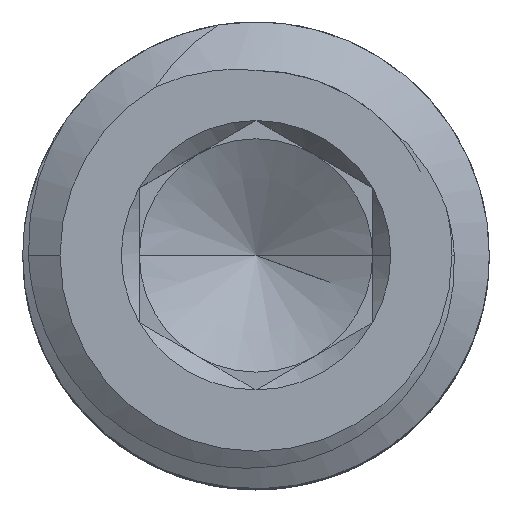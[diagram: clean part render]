
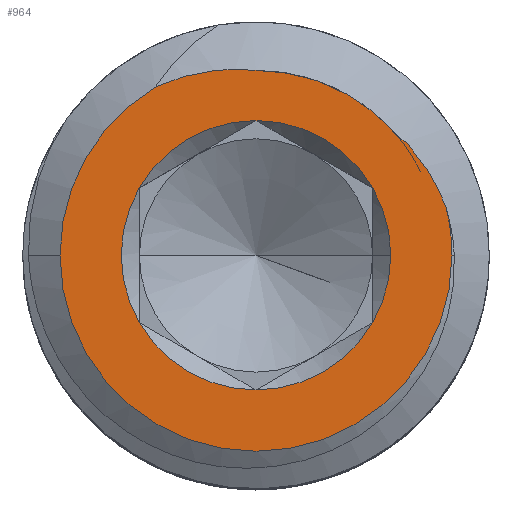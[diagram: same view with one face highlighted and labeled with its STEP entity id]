
A CAD part, top view. The second image highlights one B-rep face of the part: STEP entity #964.
In plain terms, the highlighted planar face has unit normal (0, 0, 1).
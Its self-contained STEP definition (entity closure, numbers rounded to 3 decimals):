
#11 = ORIENTED_EDGE ( 'NONE', *, *, #3642, .F. ) ;
#25 = EDGE_CURVE ( 'NONE', #1557, #1730, #1767, .T. ) ;
#26 = B_SPLINE_CURVE_WITH_KNOTS ( 'NONE', 3,
 ( #3170, #3130, #3514, #1453, #2888, #878 ),
 .UNSPECIFIED., .F., .F.,
 ( 4, 2, 4 ),
 ( 0.002, 0.002, 0.003 ),
 .UNSPECIFIED. ) ;
#74 = CIRCLE ( 'NONE', #3297, 1.443 ) ;
#79 = CARTESIAN_POINT ( 'NONE',  ( 2.037, 0.512, 5. ) ) ;
#80 = CIRCLE ( 'NONE', #2043, 1.443 ) ;
#100 = B_SPLINE_CURVE_WITH_KNOTS ( 'NONE', 3,
 ( #236, #3662, #1386, #1063, #503, #1672 ),
 .UNSPECIFIED., .F., .F.,
 ( 4, 2, 4 ),
 ( 0., 0.001, 0.001 ),
 .UNSPECIFIED. ) ;
#120 = CARTESIAN_POINT ( 'NONE',  ( 0., 0., 5. ) ) ;
#157 = CARTESIAN_POINT ( 'NONE',  ( 0., 0., 5. ) ) ;
#236 = CARTESIAN_POINT ( 'NONE',  ( 1.4, 1.4, 5. ) ) ;
#261 = CARTESIAN_POINT ( 'NONE',  ( 1.208, 1.575, 5. ) ) ;
#280 = FACE_BOUND ( 'NONE', #1594, .T. ) ;
#297 = CARTESIAN_POINT ( 'NONE',  ( 1.308, 1.493, 5. ) ) ;
#302 = AXIS2_PLACEMENT_3D ( 'NONE', #2616, #1155, #3507 ) ;
#335 = AXIS2_PLACEMENT_3D ( 'NONE', #1184, #2021, #583 ) ;
#403 = CARTESIAN_POINT ( 'NONE',  ( 0., -1.443, 5. ) ) ;
#450 = EDGE_CURVE ( 'NONE', #3005, #1706, #80, .T. ) ;
#495 = AXIS2_PLACEMENT_3D ( 'NONE', #3519, #759, #715 ) ;
#503 = CARTESIAN_POINT ( 'NONE',  ( 1.973, 0.684, 5. ) ) ;
#544 = CARTESIAN_POINT ( 'NONE',  ( 0.515, 1.917, 5. ) ) ;
#561 = CARTESIAN_POINT ( 'NONE',  ( 0., 0., 5. ) ) ;
#565 = CARTESIAN_POINT ( 'NONE',  ( 0.131, 1.98, 5. ) ) ;
#572 = DIRECTION ( 'NONE',  ( 1., 0., 0. ) ) ;
#583 = DIRECTION ( 'NONE',  ( -1., 0., 0. ) ) ;
#601 = CARTESIAN_POINT ( 'NONE',  ( 0.994, 1.718, 5. ) ) ;
#688 = VERTEX_POINT ( 'NONE', #713 ) ;
#701 = ORIENTED_EDGE ( 'NONE', *, *, #3229, .F. ) ;
#713 = CARTESIAN_POINT ( 'NONE',  ( 0., 1.443, 5. ) ) ;
#715 = DIRECTION ( 'NONE',  ( 1., 0., 0. ) ) ;
#749 = AXIS2_PLACEMENT_3D ( 'NONE', #120, #2245, #2167 ) ;
#759 = DIRECTION ( 'NONE',  ( 0., 0., 1. ) ) ;
#834 = DIRECTION ( 'NONE',  ( 0., 0., 1. ) ) ;
#857 = CARTESIAN_POINT ( 'NONE',  ( 2.1, 0., 5. ) ) ;
#862 = EDGE_CURVE ( 'NONE', #3611, #1654, #2081, .T. ) ;
#878 = CARTESIAN_POINT ( 'NONE',  ( 0., 1.98, 5. ) ) ;
#897 = EDGE_CURVE ( 'NONE', #1557, #3611, #26, .T. ) ;
#912 = AXIS2_PLACEMENT_3D ( 'NONE', #2627, #3504, #572 ) ;
#964 = ADVANCED_FACE ( 'NONE', ( #280, #1413 ), #3463, .F. ) ;
#992 = EDGE_LOOP ( 'NONE', ( #1321, #2596, #1601, #2606, #3175, #3305 ) ) ;
#1063 = CARTESIAN_POINT ( 'NONE',  ( 1.886, 0.849, 5. ) ) ;
#1091 = CIRCLE ( 'NONE', #912, 1.443 ) ;
#1130 = CARTESIAN_POINT ( 'NONE',  ( 1.25, 0.722, 5. ) ) ;
#1147 = DIRECTION ( 'NONE',  ( 0., 0., 1. ) ) ;
#1151 = VERTEX_POINT ( 'NONE', #79 ) ;
#1155 = DIRECTION ( 'NONE',  ( 0., 0., 1. ) ) ;
#1156 = EDGE_CURVE ( 'NONE', #3598, #688, #3559, .T. ) ;
#1171 = ORIENTED_EDGE ( 'NONE', *, *, #1156, .F. ) ;
#1184 = CARTESIAN_POINT ( 'NONE',  ( 0., 0., 5. ) ) ;
#1190 = DIRECTION ( 'NONE',  ( 1., 0., 0. ) ) ;
#1248 = CARTESIAN_POINT ( 'NONE',  ( 0., 0., 5. ) ) ;
#1289 = EDGE_CURVE ( 'NONE', #1730, #2151, #1840, .T. ) ;
#1321 = ORIENTED_EDGE ( 'NONE', *, *, #897, .F. ) ;
#1326 = CARTESIAN_POINT ( 'NONE',  ( 1.25, -0.722, 5. ) ) ;
#1352 = CIRCLE ( 'NONE', #495, 1.443 ) ;
#1386 = CARTESIAN_POINT ( 'NONE',  ( 1.671, 1.149, 5. ) ) ;
#1398 = CIRCLE ( 'NONE', #3344, 1.443 ) ;
#1413 = FACE_OUTER_BOUND ( 'NONE', #992, .T. ) ;
#1453 = CARTESIAN_POINT ( 'NONE',  ( -0.371, 1.994, 5. ) ) ;
#1465 = DIRECTION ( 'NONE',  ( 1., 0., 0. ) ) ;
#1471 = CARTESIAN_POINT ( 'NONE',  ( 1.4, 1.4, 5. ) ) ;
#1557 = VERTEX_POINT ( 'NONE', #3255 ) ;
#1593 = CIRCLE ( 'NONE', #749, 2.1 ) ;
#1594 = EDGE_LOOP ( 'NONE', ( #1686, #701, #1171, #11, #2434, #3133, #2048 ) ) ;
#1601 = ORIENTED_EDGE ( 'NONE', *, *, #1289, .T. ) ;
#1654 = VERTEX_POINT ( 'NONE', #3653 ) ;
#1672 = CARTESIAN_POINT ( 'NONE',  ( 2.037, 0.512, 5. ) ) ;
#1686 = ORIENTED_EDGE ( 'NONE', *, *, #2066, .F. ) ;
#1702 = DIRECTION ( 'NONE',  ( 0., 0., 1. ) ) ;
#1706 = VERTEX_POINT ( 'NONE', #1326 ) ;
#1716 = CARTESIAN_POINT ( 'NONE',  ( 0.878, 1.78, 5. ) ) ;
#1722 = CARTESIAN_POINT ( 'NONE',  ( 0., 0., 5. ) ) ;
#1730 = VERTEX_POINT ( 'NONE', #2761 ) ;
#1739 = CARTESIAN_POINT ( 'NONE',  ( 0.638, 1.879, 5. ) ) ;
#1767 = CIRCLE ( 'NONE', #302, 2.1 ) ;
#1788 = DIRECTION ( 'NONE',  ( 1., 0., 0. ) ) ;
#1840 = CIRCLE ( 'NONE', #2031, 2.1 ) ;
#1944 = DIRECTION ( 'NONE',  ( 1., 0., 0. ) ) ;
#1988 = AXIS2_PLACEMENT_3D ( 'NONE', #1248, #2094, #1788 ) ;
#2021 = DIRECTION ( 'NONE',  ( 0., 0., -1. ) ) ;
#2031 = AXIS2_PLACEMENT_3D ( 'NONE', #561, #834, #1465 ) ;
#2043 = AXIS2_PLACEMENT_3D ( 'NONE', #2225, #3380, #2843 ) ;
#2048 = ORIENTED_EDGE ( 'NONE', *, *, #2842, .F. ) ;
#2062 = DIRECTION ( 'NONE',  ( 1., 0., 0. ) ) ;
#2066 = EDGE_CURVE ( 'NONE', #2234, #3121, #1352, .T. ) ;
#2081 = B_SPLINE_CURVE_WITH_KNOTS ( 'NONE', 3,
 ( #3477, #565, #2318, #544, #1739, #1716, #601, #261, #297, #1471 ),
 .UNSPECIFIED., .F., .F.,
 ( 4, 2, 2, 2, 4 ),
 ( 0., 0., 0.001, 0.001, 0.002 ),
 .UNSPECIFIED. ) ;
#2094 = DIRECTION ( 'NONE',  ( 0., 0., 1. ) ) ;
#2151 = VERTEX_POINT ( 'NONE', #857 ) ;
#2167 = DIRECTION ( 'NONE',  ( 1., 0., 0. ) ) ;
#2225 = CARTESIAN_POINT ( 'NONE',  ( 0., 0., 5. ) ) ;
#2234 = VERTEX_POINT ( 'NONE', #3379 ) ;
#2245 = DIRECTION ( 'NONE',  ( 0., 0., 1. ) ) ;
#2318 = CARTESIAN_POINT ( 'NONE',  ( 0.262, 1.967, 5. ) ) ;
#2320 = EDGE_CURVE ( 'NONE', #1654, #1151, #100, .T. ) ;
#2321 = CARTESIAN_POINT ( 'NONE',  ( 1.443, 0., 5. ) ) ;
#2334 = CIRCLE ( 'NONE', #3667, 1.443 ) ;
#2434 = ORIENTED_EDGE ( 'NONE', *, *, #3684, .F. ) ;
#2452 = EDGE_CURVE ( 'NONE', #2151, #1151, #1593, .T. ) ;
#2551 = CARTESIAN_POINT ( 'NONE',  ( 0., 1.98, 5. ) ) ;
#2596 = ORIENTED_EDGE ( 'NONE', *, *, #25, .T. ) ;
#2606 = ORIENTED_EDGE ( 'NONE', *, *, #2452, .T. ) ;
#2616 = CARTESIAN_POINT ( 'NONE',  ( 0., 0., 5. ) ) ;
#2627 = CARTESIAN_POINT ( 'NONE',  ( 0., 0., 5. ) ) ;
#2761 = CARTESIAN_POINT ( 'NONE',  ( -2.1, 0., 5. ) ) ;
#2767 = VERTEX_POINT ( 'NONE', #2321 ) ;
#2842 = EDGE_CURVE ( 'NONE', #3121, #3005, #2334, .T. ) ;
#2843 = DIRECTION ( 'NONE',  ( 1., 0., 0. ) ) ;
#2888 = CARTESIAN_POINT ( 'NONE',  ( -0.185, 2., 5. ) ) ;
#3005 = VERTEX_POINT ( 'NONE', #403 ) ;
#3121 = VERTEX_POINT ( 'NONE', #3643 ) ;
#3130 = CARTESIAN_POINT ( 'NONE',  ( -0.91, 1.88, 5. ) ) ;
#3133 = ORIENTED_EDGE ( 'NONE', *, *, #450, .F. ) ;
#3170 = CARTESIAN_POINT ( 'NONE',  ( -1.078, 1.802, 5. ) ) ;
#3175 = ORIENTED_EDGE ( 'NONE', *, *, #2320, .F. ) ;
#3229 = EDGE_CURVE ( 'NONE', #688, #2234, #74, .T. ) ;
#3255 = CARTESIAN_POINT ( 'NONE',  ( -1.078, 1.802, 5. ) ) ;
#3297 = AXIS2_PLACEMENT_3D ( 'NONE', #157, #3705, #1944 ) ;
#3305 = ORIENTED_EDGE ( 'NONE', *, *, #862, .F. ) ;
#3344 = AXIS2_PLACEMENT_3D ( 'NONE', #3768, #1702, #1190 ) ;
#3379 = CARTESIAN_POINT ( 'NONE',  ( -1.25, 0.722, 5. ) ) ;
#3380 = DIRECTION ( 'NONE',  ( 0., 0., 1. ) ) ;
#3463 = PLANE ( 'NONE',  #335 ) ;
#3477 = CARTESIAN_POINT ( 'NONE',  ( 0., 1.98, 5. ) ) ;
#3504 = DIRECTION ( 'NONE',  ( 0., 0., 1. ) ) ;
#3507 = DIRECTION ( 'NONE',  ( 1., 0., 0. ) ) ;
#3514 = CARTESIAN_POINT ( 'NONE',  ( -0.735, 1.934, 5. ) ) ;
#3519 = CARTESIAN_POINT ( 'NONE',  ( 0., 0., 5. ) ) ;
#3559 = CIRCLE ( 'NONE', #1988, 1.443 ) ;
#3598 = VERTEX_POINT ( 'NONE', #1130 ) ;
#3611 = VERTEX_POINT ( 'NONE', #2551 ) ;
#3642 = EDGE_CURVE ( 'NONE', #2767, #3598, #1398, .T. ) ;
#3643 = CARTESIAN_POINT ( 'NONE',  ( -1.25, -0.722, 5. ) ) ;
#3653 = CARTESIAN_POINT ( 'NONE',  ( 1.4, 1.4, 5. ) ) ;
#3662 = CARTESIAN_POINT ( 'NONE',  ( 1.545, 1.283, 5. ) ) ;
#3667 = AXIS2_PLACEMENT_3D ( 'NONE', #1722, #1147, #2062 ) ;
#3684 = EDGE_CURVE ( 'NONE', #1706, #2767, #1091, .T. ) ;
#3705 = DIRECTION ( 'NONE',  ( 0., 0., 1. ) ) ;
#3768 = CARTESIAN_POINT ( 'NONE',  ( 0., 0., 5. ) ) ;
